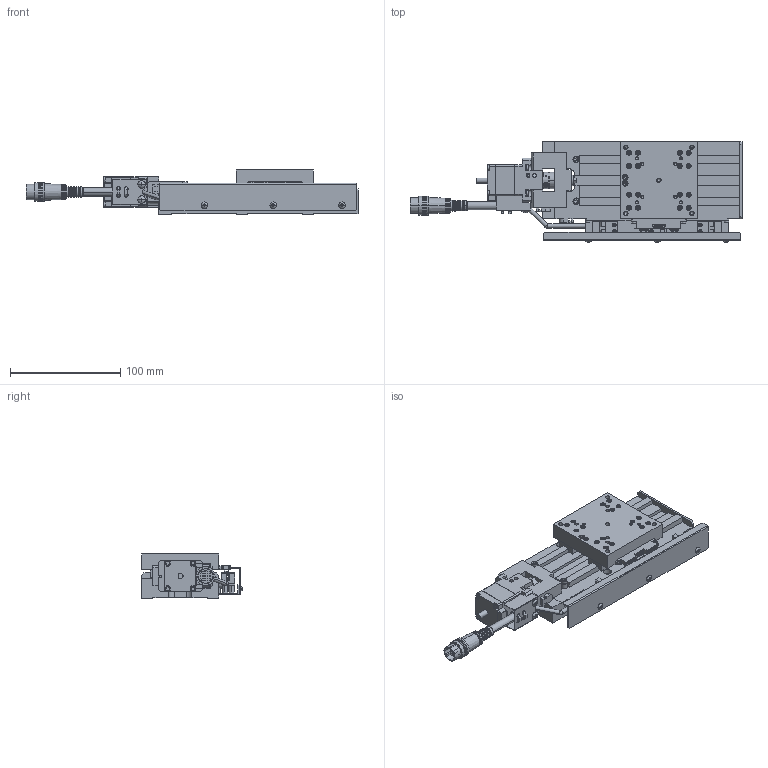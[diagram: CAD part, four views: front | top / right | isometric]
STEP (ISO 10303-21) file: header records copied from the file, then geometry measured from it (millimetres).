
FILE_DESCRIPTION (( 'STEP AP203' ), '1' );
FILE_NAME ('XA07A-L202.STEP', '2019-02-25T05:19:19', ( '' ), ( '' ), 'SwSTEP 2.0', 'SolidWorks 2018', '' );
FILE_SCHEMA (( 'CONFIG_CONTROL_DESIGN' ));
Length unit declared in the file: millimetre
Products named in the file (7): base-Part-4; XA07A-L202; base-Part-2; base; base-Part-3; table; base-Part-1
Assembly tree (6 placements, depth 3):
  XA07A-L202
    base
      base-Part-1
      base-Part-2
      base-Part-3
      base-Part-4
    table
Bounding box: 301.5 x 91.18 x 40 mm (x, y, z)
Volume: 379255.6 mm3; surface area: 107845.2 mm2
Topology: 5 solids, 5 shells, 2308 faces, 5711 edges, 3489 vertices
Faces by surface type: plane 1329, cylinder 565, cone 342, torus 44, sphere 28
Entity records: 68613 total; most frequent: CARTESIAN_POINT 12322, DIRECTION 12096, ORIENTED_EDGE 11174, EDGE_CURVE 5587, AXIS2_PLACEMENT_3D 4299, LINE 3498, VECTOR 3498, VERTEX_POINT 3483
